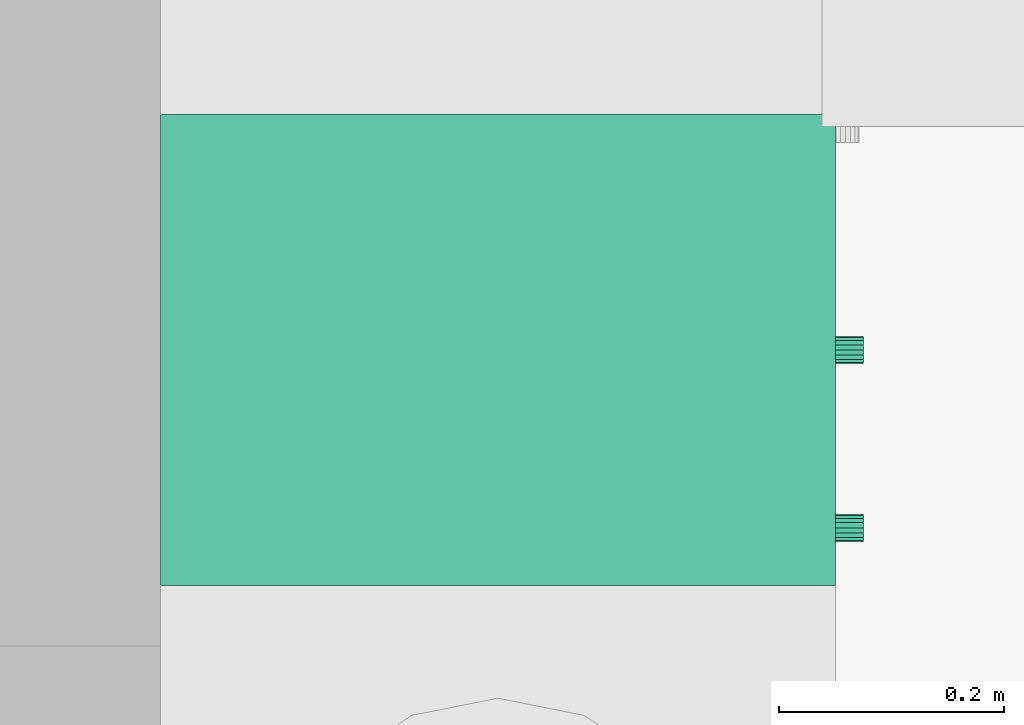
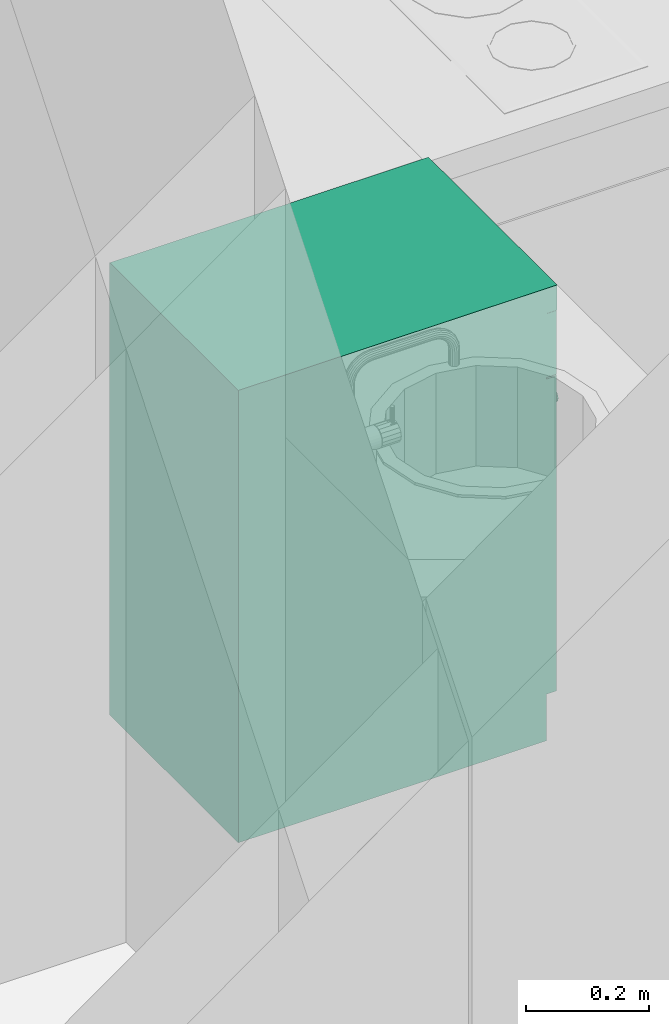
# One storey, part 32 of 165: 1 flow terminal.
"""IFC2X3 building model written with IfcOpenShell, lengths in millimetres."""

from ifc_helpers import new_model, entity, si_unit, converted_unit, money_unit, direction, frame, origin_with_axes, place, context, subcontext, project, spatial, faceted_brep, source, transform, mapped, material, material_list, type_object, element, save


model = new_model("IFC2X3")

# Units and contexts
model_context = context("Model", 3, precision=1e-05, world=origin_with_axes(), true_north=direction((0.0, 1.0)))
body_context = subcontext(model_context, "Body", "Model", "MODEL_VIEW")
ifc_project = project(units=[si_unit("LENGTHUNIT", "METRE", prefix="MILLI"), si_unit("AREAUNIT", "SQUARE_METRE"), si_unit("VOLUMEUNIT", "CUBIC_METRE"), converted_unit("PLANEANGLEUNIT", "DEGREE", entity("IfcPlaneAngleMeasure", 0.0174532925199), si_unit("PLANEANGLEUNIT", "RADIAN"), dimensions=[0, 0, 0, 0, 0, 0, 0]), si_unit("SOLIDANGLEUNIT", "STERADIAN"), money_unit("USD"), converted_unit("TIMEUNIT", "Year", entity("IfcTimeMeasure", 31556926.0), si_unit("TIMEUNIT", "SECOND"), dimensions=[0, 0, 0, 0, 0, 0, 0]), si_unit("MASSUNIT", "GRAM"), si_unit("THERMODYNAMICTEMPERATUREUNIT", "DEGREE_CELSIUS"), si_unit("LUMINOUSINTENSITYUNIT", "LUMEN")], contexts=[model_context])

# Site, building, storey
site_placement = place(None, origin_with_axes())
site = spatial("IfcSite", under=ifc_project, at=site_placement, Name="Site", CompositionType="ELEMENT")
building_placement = place(site_placement, origin_with_axes())
building = spatial("IfcBuilding", under=site, at=building_placement, Name="Building", CompositionType="ELEMENT")
storey_placement = place(building_placement, frame((0.0, 0.0, 6300.0), z_axis=(0.0, 0.0, 1.0), x_axis=(1.0, 0.0, 0.0)))
storey = spatial("IfcBuildingStorey", under=building, at=storey_placement, Name="4KORRUS", CompositionType="ELEMENT", Elevation=6300.0)

# Flow terminal
ifc_material = material(Name="Background")
ifc_material_list = material_list([ifc_material])
sanitary_terminal_type = type_object("IfcSanitaryTerminalType", Name="Cabinet Base Single Door 19", PredefinedType="SINK")
shared_shape = source(origin_with_axes(), body_context, "Body", "Brep", [
    faceted_brep([(-20.0, 20.0, 710.0), (-20.0, 20.0, 730.0), (-399.226, 20.0, 730.0), (-399.226, 20.0, 710.0), (-20.0, 580.0, 710.0), (-20.0, 580.0, 730.0), (-399.226, 580.0, 730.0), (-399.226, 580.0, 710.0)], [[[0, 1, 2, 3]], [[4, 5, 1, 0]], [[1, 5, 6, 2]], [[3, 2, 6, 7]], [[0, 3, 7, 4]], [[7, 6, 5, 4]]]),
    faceted_brep([(0.0, 20.0, 0.0), (0.0, 20.0, 90.0), (-419.226, 20.0, 90.0), (-419.226, 20.0, 0.0), (0.0, 600.0, 0.0), (0.0, 600.0, 90.0), (-419.226, 600.0, 90.0), (-419.226, 600.0, 0.0)], [[[0, 1, 2, 3]], [[4, 5, 1, 0]], [[1, 5, 6, 2]], [[3, 2, 6, 7]], [[0, 3, 7, 4]], [[7, 6, 5, 4]]]),
    faceted_brep([(0.0, 20.0, 830.0), (0.0, 20.0, 850.0), (-20.0, 20.0, 850.0), (-20.0, 20.0, 830.0), (0.0, 600.0, 830.0), (0.0, 600.0, 850.0), (-20.0, 600.0, 850.0), (-399.226, 600.0, 850.0), (-419.226, 600.0, 850.0), (-419.226, 20.0, 850.0), (-399.226, 20.0, 850.0), (-399.226, 20.0, 830.0), (-419.226, 20.0, 830.0), (-419.226, 600.0, 830.0), (-399.226, 600.0, 830.0), (-20.0, 600.0, 830.0)], [[[0, 1, 2, 3]], [[4, 5, 1, 0]], [[1, 5, 6, 7, 8, 9, 10, 2]], [[3, 2, 10, 11]], [[0, 3, 11, 12, 13, 14, 15, 4]], [[15, 6, 5, 4]], [[14, 7, 6, 15]], [[13, 8, 7, 14]], [[12, 9, 8, 13]], [[11, 10, 9, 12]]]),
    faceted_brep([(0.0, 20.0, 90.0), (0.0, 20.0, 110.0), (-20.0, 20.0, 110.0), (-20.0, 20.0, 90.0), (0.0, 600.0, 90.0), (0.0, 600.0, 110.0), (-20.0, 600.0, 110.0), (-399.226, 600.0, 110.0), (-419.226, 600.0, 110.0), (-419.226, 20.0, 110.0), (-399.226, 20.0, 110.0), (-399.226, 20.0, 90.0), (-419.226, 20.0, 90.0), (-419.226, 600.0, 90.0), (-399.226, 600.0, 90.0), (-20.0, 600.0, 90.0)], [[[0, 1, 2, 3]], [[4, 5, 1, 0]], [[1, 5, 6, 7, 8, 9, 10, 2]], [[3, 2, 10, 11]], [[0, 3, 11, 12, 13, 14, 15, 4]], [[15, 6, 5, 4]], [[14, 7, 6, 15]], [[13, 8, 7, 14]], [[12, 9, 8, 13]], [[11, 10, 9, 12]]]),
    faceted_brep([(0.0, 20.0, 110.0), (0.0, 20.0, 830.0), (-20.0, 20.0, 830.0), (-20.0, 20.0, 110.0), (0.0, 600.0, 110.0), (0.0, 600.0, 830.0), (-419.226, 600.0, 830.0), (-419.226, 20.0, 830.0), (-399.226, 20.0, 830.0), (-399.226, 580.0, 830.0), (-20.0, 580.0, 830.0), (-20.0, 580.0, 110.0), (-399.226, 580.0, 110.0), (-399.226, 20.0, 110.0), (-419.226, 20.0, 110.0), (-419.226, 600.0, 110.0)], [[[0, 1, 2, 3]], [[4, 5, 1, 0]], [[1, 5, 6, 7, 8, 9, 10, 2]], [[3, 2, 10, 11]], [[0, 3, 11, 12, 13, 14, 15, 4]], [[15, 6, 5, 4]], [[14, 7, 6, 15]], [[13, 8, 7, 14]], [[12, 9, 8, 13]], [[11, 10, 9, 12]]]),
    faceted_brep([(-399.226, 20.0, 385.0), (-399.226, 20.0, 405.0), (-399.226, 580.0, 405.0), (-399.226, 580.0, 385.0), (-20.0, 20.0, 385.0), (-20.0, 20.0, 405.0), (-20.0, 580.0, 405.0), (-20.0, 580.0, 385.0)], [[[0, 1, 2, 3]], [[4, 5, 1, 0]], [[1, 5, 6, 2]], [[3, 2, 6, 7]], [[0, 3, 7, 4]], [[7, 6, 5, 4]]]),
    faceted_brep([(0.0, 0.0, 850.0), (0.0, 0.0, 900.0), (-419.226, 0.0, 900.0), (-419.226, 0.0, 850.0), (0.0, 600.0, 850.0), (0.0, 600.0, 900.0), (-419.226, 600.0, 900.0), (-419.226, 600.0, 850.0)], [[[0, 1, 2, 3]], [[4, 5, 1, 0]], [[1, 5, 6, 2]], [[3, 2, 6, 7]], [[0, 3, 7, 4]], [[7, 6, 5, 4]]]),
    faceted_brep([(-1.5, 20.0, 721.5), (-1.5, 0.0, 721.5), (-417.726, 0.0, 721.5), (-417.726, 20.0, 721.5), (-1.5, 20.0, 848.5), (-1.5, 0.0, 848.5), (-417.726, 0.0, 848.5), (-417.726, 20.0, 848.5)], [[[0, 1, 2, 3]], [[4, 5, 1, 0]], [[1, 5, 6, 2]], [[3, 2, 6, 7]], [[0, 3, 7, 4]], [[7, 6, 5, 4]]]),
    faceted_brep([(-205.021, 0.0, 773.913), (-209.613, 0.0, 773.0), (-214.205, 0.0, 773.913), (-218.098, 0.0, 776.515), (-220.699, 0.0, 780.408), (-221.613, 0.0, 785.0), (-220.699, 0.0, 789.592), (-218.098, 0.0, 793.485), (-214.205, 0.0, 796.087), (-209.613, 0.0, 797.0), (-205.021, 0.0, 796.087), (-201.128, 0.0, 793.485), (-198.526, 0.0, 789.592), (-197.613, 0.0, 785.0), (-198.526, 0.0, 780.408), (-201.128, 0.0, 776.515), (-205.021, -25.0, 773.913), (-209.613, -25.0, 773.0), (-214.205, -25.0, 773.913), (-218.098, -25.0, 776.515), (-220.699, -25.0, 780.408), (-221.613, -25.0, 785.0), (-220.699, -25.0, 789.592), (-218.098, -25.0, 793.485), (-214.205, -25.0, 796.087), (-209.613, -25.0, 797.0), (-205.021, -25.0, 796.087), (-201.128, -25.0, 793.485), (-198.526, -25.0, 789.592), (-197.613, -25.0, 785.0), (-198.526, -25.0, 780.408), (-201.128, -25.0, 776.515)], [[[0, 1, 2, 3, 4, 5, 6, 7, 8, 9, 10, 11, 12, 13, 14, 15]], [[0, 16, 17, 1]], [[1, 17, 18, 2]], [[2, 18, 19, 3]], [[3, 19, 20, 4]], [[4, 20, 21, 5]], [[5, 21, 22, 6]], [[6, 22, 23, 7]], [[7, 23, 24, 8]], [[8, 24, 25, 9]], [[9, 25, 26, 10]], [[10, 26, 27, 11]], [[11, 27, 28, 12]], [[12, 28, 29, 13]], [[13, 29, 30, 14]], [[14, 30, 31, 15]], [[15, 31, 16, 0]], [[16, 31, 30, 29, 28, 27, 26, 25, 24, 23, 22, 21, 20, 19, 18, 17]]]),
    faceted_brep([(-1.5, 20.0, 91.5), (-1.5, 0.0, 91.5), (-417.726, 0.0, 91.5), (-417.726, 20.0, 91.5), (-1.5, 20.0, 718.5), (-1.5, 0.0, 718.5), (-417.726, 0.0, 718.5), (-417.726, 20.0, 718.5)], [[[0, 1, 2, 3]], [[4, 5, 1, 0]], [[1, 5, 6, 2]], [[3, 2, 6, 7]], [[0, 3, 7, 4]], [[7, 6, 5, 4]]]),
    faceted_brep([(-378.812, 0.0, 636.908), (-379.726, 0.0, 641.5), (-378.812, 0.0, 646.092), (-376.211, 0.0, 649.985), (-372.318, 0.0, 652.587), (-367.726, 0.0, 653.5), (-363.133, 0.0, 652.587), (-359.24, 0.0, 649.985), (-356.639, 0.0, 646.092), (-355.726, 0.0, 641.5), (-356.639, 0.0, 636.908), (-359.24, 0.0, 633.015), (-363.133, 0.0, 630.413), (-367.726, 0.0, 629.5), (-372.318, 0.0, 630.413), (-376.211, 0.0, 633.015), (-378.812, -25.0, 636.908), (-379.726, -25.0, 641.5), (-378.812, -25.0, 646.092), (-376.211, -25.0, 649.985), (-372.318, -25.0, 652.587), (-367.726, -25.0, 653.5), (-363.133, -25.0, 652.587), (-359.24, -25.0, 649.985), (-356.639, -25.0, 646.092), (-355.726, -25.0, 641.5), (-356.639, -25.0, 636.908), (-359.24, -25.0, 633.015), (-363.133, -25.0, 630.413), (-367.726, -25.0, 629.5), (-372.318, -25.0, 630.413), (-376.211, -25.0, 633.015)], [[[0, 1, 2, 3, 4, 5, 6, 7, 8, 9, 10, 11, 12, 13, 14, 15]], [[0, 16, 17, 1]], [[1, 17, 18, 2]], [[2, 18, 19, 3]], [[3, 19, 20, 4]], [[4, 20, 21, 5]], [[5, 21, 22, 6]], [[6, 22, 23, 7]], [[7, 23, 24, 8]], [[8, 24, 25, 9]], [[9, 25, 26, 10]], [[10, 26, 27, 11]], [[11, 27, 28, 12]], [[12, 28, 29, 13]], [[13, 29, 30, 14]], [[14, 30, 31, 15]], [[15, 31, 16, 0]], [[16, 31, 30, 29, 28, 27, 26, 25, 24, 23, 22, 21, 20, 19, 18, 17]]]),
])
flow_terminal_placement = place(storey_placement, frame((-41390.2967033, -9967.37850445, 0.0), z_axis=(0.0, 0.0, 1.0), x_axis=(0.0, 1.0, 0.0)))
element("IfcFlowTerminal", 1, at=flow_terminal_placement, inside=storey, type_object=sanitary_terminal_type, material=ifc_material_list, Name="FU - 007", context=body_context, shape_type="MappedRepresentation", body=[
    mapped(shared_shape, transform((0.0, 0.0, 0.0))),
])

save(model, "model.ifc")
